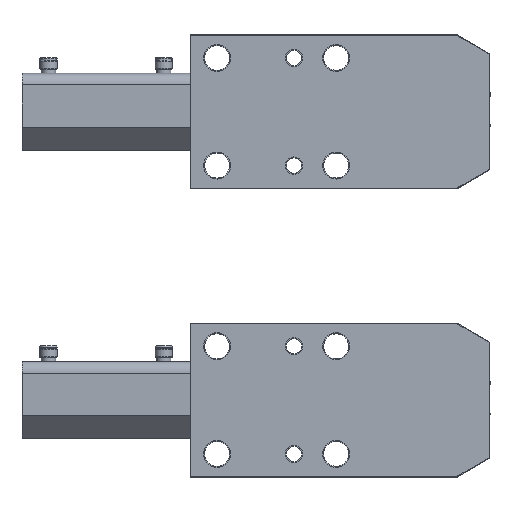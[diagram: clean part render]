
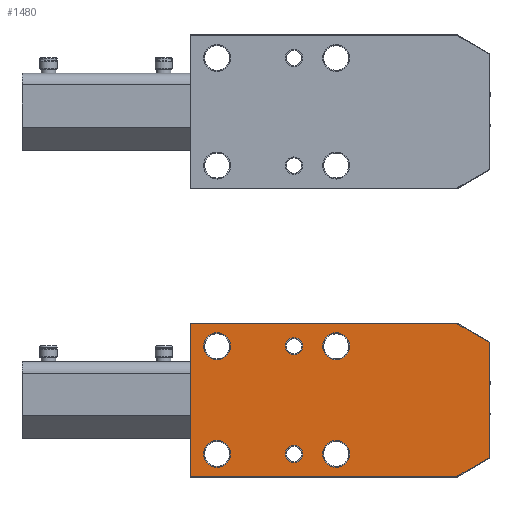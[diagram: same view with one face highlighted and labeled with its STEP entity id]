
A CAD part, top view. The second image highlights one B-rep face of the part: STEP entity #1480.
In plain terms, the highlighted planar face has unit normal (0, 0, 1).
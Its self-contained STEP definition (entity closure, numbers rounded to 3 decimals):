
#1480=ADVANCED_FACE('',(#3488,#3489,#3490,#3491,#3492,#3493,#3494),#3495,.F.);
#3488=FACE_OUTER_BOUND('',#6332,.T.);
#3489=FACE_BOUND('',#6333,.T.);
#3490=FACE_BOUND('',#6334,.T.);
#3491=FACE_BOUND('',#6335,.T.);
#3492=FACE_BOUND('',#6336,.T.);
#3493=FACE_BOUND('',#6337,.T.);
#3494=FACE_BOUND('',#6338,.T.);
#3495=PLANE('',#6339);
#6332=EDGE_LOOP('',(#10674,#10675,#10676,#10677,#10678,#10679));
#6333=EDGE_LOOP('',(#10680));
#6334=EDGE_LOOP('',(#10681));
#6335=EDGE_LOOP('',(#10682));
#6336=EDGE_LOOP('',(#10683));
#6337=EDGE_LOOP('',(#10684));
#6338=EDGE_LOOP('',(#10685));
#6339=AXIS2_PLACEMENT_3D('',#10686,#10687,#10688);
#10674=ORIENTED_EDGE('',*,*,#16995,.F.);
#10675=ORIENTED_EDGE('',*,*,#17285,.F.);
#10676=ORIENTED_EDGE('',*,*,#17189,.F.);
#10677=ORIENTED_EDGE('',*,*,#16721,.F.);
#10678=ORIENTED_EDGE('',*,*,#17286,.F.);
#10679=ORIENTED_EDGE('',*,*,#17287,.F.);
#10680=ORIENTED_EDGE('',*,*,#17230,.T.);
#10681=ORIENTED_EDGE('',*,*,#17228,.T.);
#10682=ORIENTED_EDGE('',*,*,#17288,.T.);
#10683=ORIENTED_EDGE('',*,*,#17141,.T.);
#10684=ORIENTED_EDGE('',*,*,#16463,.T.);
#10685=ORIENTED_EDGE('',*,*,#16836,.T.);
#10686=CARTESIAN_POINT('',(1782.0,-150.0,47.));
#10687=DIRECTION('',(0.0,0.,-1.0));
#10688=DIRECTION('',(0.0,-1.0,0.));
#16463=EDGE_CURVE('',#19486,#19486,#19487,.T.);
#16721=EDGE_CURVE('',#19927,#19923,#19929,.T.);
#16836=EDGE_CURVE('',#20113,#20113,#20114,.T.);
#16995=EDGE_CURVE('',#20357,#20359,#20360,.T.);
#17141=EDGE_CURVE('',#20573,#20573,#20574,.T.);
#17189=EDGE_CURVE('',#19923,#20640,#20641,.T.);
#17228=EDGE_CURVE('',#20689,#20689,#20690,.T.);
#17230=EDGE_CURVE('',#20692,#20692,#20693,.T.);
#17285=EDGE_CURVE('',#20640,#20357,#20769,.T.);
#17286=EDGE_CURVE('',#20770,#19927,#20771,.T.);
#17287=EDGE_CURVE('',#20359,#20770,#20772,.T.);
#17288=EDGE_CURVE('',#20773,#20773,#20774,.T.);
#19486=VERTEX_POINT('',#24015);
#19487=CIRCLE('',#24016,7.0);
#19923=VERTEX_POINT('',#24696);
#19927=VERTEX_POINT('',#24702);
#19929=LINE('',#24705,#24706);
#20113=VERTEX_POINT('',#25008);
#20114=CIRCLE('',#25009,7.0);
#20357=VERTEX_POINT('',#25426);
#20359=VERTEX_POINT('',#25429);
#20360=LINE('',#25430,#25431);
#20573=VERTEX_POINT('',#25795);
#20574=CIRCLE('',#25796,7.0);
#20640=VERTEX_POINT('',#25901);
#20641=LINE('',#25902,#25903);
#20689=VERTEX_POINT('',#25983);
#20690=CIRCLE('',#25984,4.5);
#20692=VERTEX_POINT('',#25986);
#20693=CIRCLE('',#25987,4.5);
#20769=LINE('',#26104,#26105);
#20770=VERTEX_POINT('',#26106);
#20771=LINE('',#26107,#26108);
#20772=LINE('',#26109,#26110);
#20773=VERTEX_POINT('',#26111);
#20774=CIRCLE('',#26112,7.0);
#24015=CARTESIAN_POINT('',(76.,19.,47.));
#24016=AXIS2_PLACEMENT_3D('',#30535,#30536,#30537);
#24696=CARTESIAN_POINT('',(138.75,79.75,47.0));
#24702=CARTESIAN_POINT('',(0.25,79.75,47.0));
#24705=CARTESIAN_POINT('',(139.933,79.75,47.0));
#24706=VECTOR('',#30736,1.0);
#25008=CARTESIAN_POINT('',(14.,19.,47.));
#25009=AXIS2_PLACEMENT_3D('',#30798,#30799,#30800);
#25426=CARTESIAN_POINT('',(155.75,10.065,47.));
#25429=CARTESIAN_POINT('',(138.75,0.25,47.));
#25430=CARTESIAN_POINT('',(1306.127,674.236,47.));
#25431=VECTOR('',#30870,1.0);
#25795=CARTESIAN_POINT('',(76.,75.,47.0));
#25796=AXIS2_PLACEMENT_3D('',#30945,#30946,#30947);
#25901=CARTESIAN_POINT('',(155.75,69.935,47.0));
#25902=CARTESIAN_POINT('',(1470.672,-689.236,47.));
#25903=VECTOR('',#30978,1.0);
#25983=CARTESIAN_POINT('',(49.5,12.,47.));
#25984=AXIS2_PLACEMENT_3D('',#30995,#30996,#30997);
#25986=CARTESIAN_POINT('',(49.5,68.,47.0));
#25987=AXIS2_PLACEMENT_3D('',#30998,#30999,#31000);
#26104=CARTESIAN_POINT('',(155.75,9.382,47.));
#26105=VECTOR('',#31036,1.0);
#26106=CARTESIAN_POINT('',(0.25,0.25,47.));
#26107=CARTESIAN_POINT('',(0.25,79.75,47.0));
#26108=VECTOR('',#31037,1.0);
#26109=CARTESIAN_POINT('',(0.25,0.25,47.));
#26110=VECTOR('',#31038,1.0);
#26111=CARTESIAN_POINT('',(14.,75.,47.0));
#26112=AXIS2_PLACEMENT_3D('',#31039,#31040,#31041);
#30535=CARTESIAN_POINT('',(76.,12.,47.));
#30536=DIRECTION('',(0.0,0.,-1.0));
#30537=DIRECTION('',(0.0,1.0,0.));
#30736=DIRECTION('',(1.0,0.0,0.0));
#30798=CARTESIAN_POINT('',(14.,12.,47.));
#30799=DIRECTION('',(0.0,0.,-1.0));
#30800=DIRECTION('',(0.0,1.0,0.));
#30870=DIRECTION('',(-0.866,-0.5,0.));
#30945=CARTESIAN_POINT('',(76.,68.,47.0));
#30946=DIRECTION('',(0.0,0.,-1.0));
#30947=DIRECTION('',(0.0,1.0,0.));
#30978=DIRECTION('',(0.866,-0.5,0.));
#30995=CARTESIAN_POINT('',(54.,12.,47.));
#30996=DIRECTION('',(-0.0,0.,-1.0));
#30997=DIRECTION('',(-1.0,0.0,0.0));
#30998=CARTESIAN_POINT('',(54.,68.,47.0));
#30999=DIRECTION('',(-0.0,0.,-1.0));
#31000=DIRECTION('',(-1.0,0.0,0.0));
#31036=DIRECTION('',(0.0,-1.0,0.));
#31037=DIRECTION('',(0.0,1.0,0.));
#31038=DIRECTION('',(-1.0,0.0,0.0));
#31039=CARTESIAN_POINT('',(14.,68.,47.0));
#31040=DIRECTION('',(0.0,0.,-1.0));
#31041=DIRECTION('',(0.0,1.0,0.));
